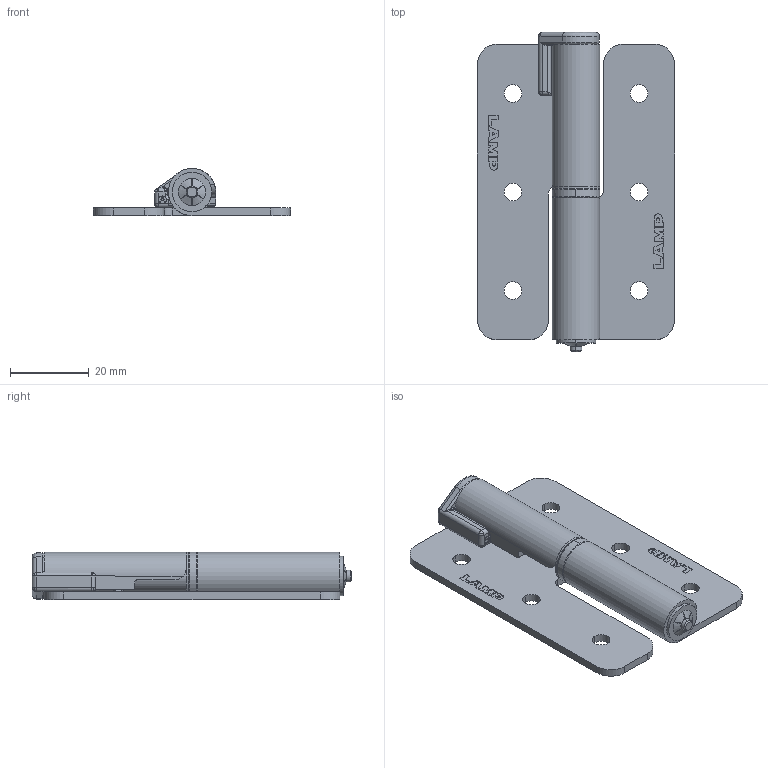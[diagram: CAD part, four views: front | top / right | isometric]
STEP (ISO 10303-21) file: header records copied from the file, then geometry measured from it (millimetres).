
FILE_DESCRIPTION (( 'STEP AP203' ), '1' );
FILE_NAME ('hg-knt16l_2.step', '2023-08-23T02:25:45', ( '' ), ( '' ), 'SwSTEP 2.0', 'SolidWorks 2022', '' );
FILE_SCHEMA (( 'CONFIG_CONTROL_DESIGN' ));
Length unit declared in the file: millimetre
Products named in the file (4): SC170-15957_HG-KNT16L_ホルダ_公開用; SC170-18081_HG-KNT16L_筐体側; SC170-15945_HG-KNT16L_羽根; hg-knt16l_2
Assembly tree (3 placements, depth 2):
  hg-knt16l_2
    SC170-18081_HG-KNT16L_筐体側
    SC170-15945_HG-KNT16L_羽根
    SC170-15957_HG-KNT16L_ホルダ_公開用
Bounding box: 50 x 81 x 12 mm (x, y, z)
Volume: 14331.4 mm3; surface area: 12997.1 mm2
Topology: 3 solids, 3 shells, 477 faces, 1305 edges, 833 vertices
Faces by surface type: plane 308, cylinder 94, bspline 49, cone 24, torus 2
Entity records: 17331 total; most frequent: CARTESIAN_POINT 5179, ORIENTED_EDGE 2582, DIRECTION 2240, EDGE_CURVE 1291, LINE 880, VECTOR 880, VERTEX_POINT 833, AXIS2_PLACEMENT_3D 680
